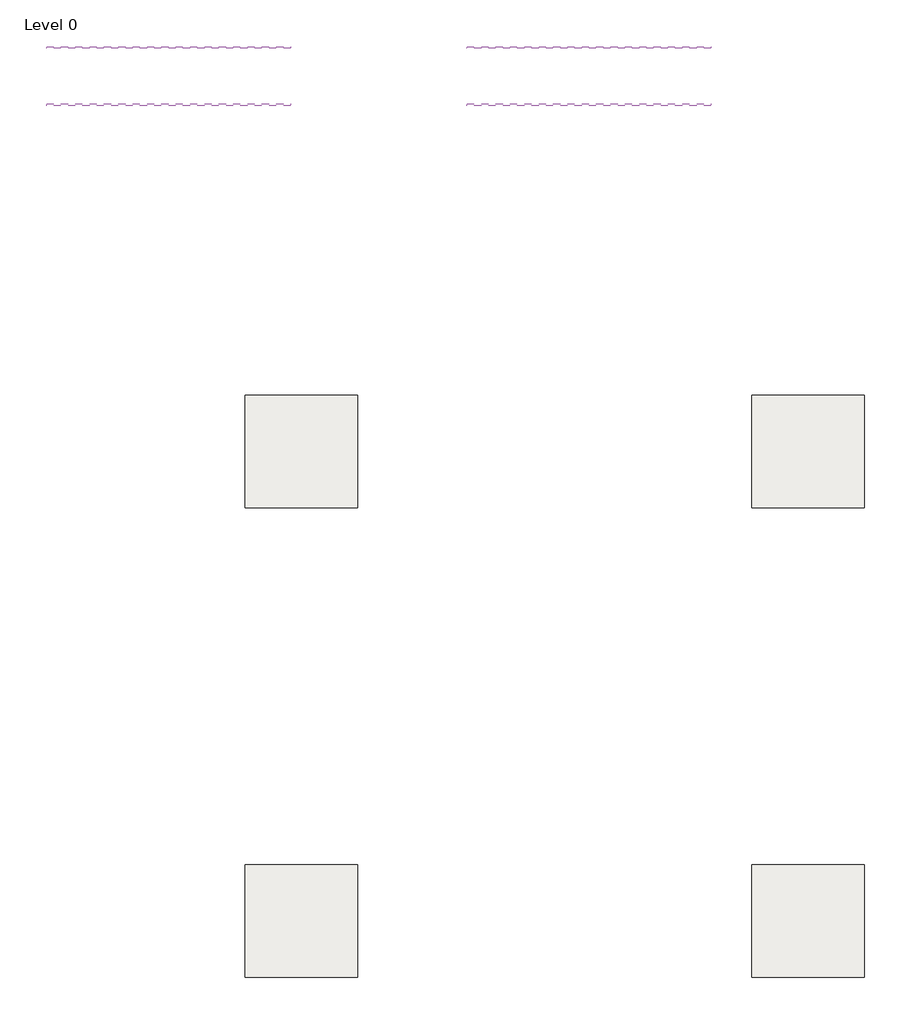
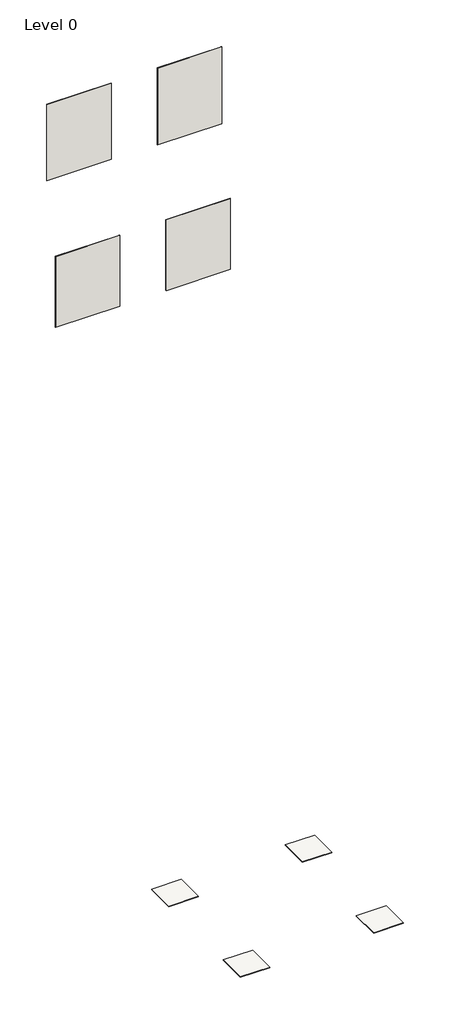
# One storey: 4 slabs, 4 walls.
"""IFC4 building model written with IfcOpenShell, lengths in millimetres."""

from ifc_helpers import new_model, si_unit, frame, origin, place, context, project, spatial, polyline, outline, extrude, element, save

model = new_model("IFC4")

# Units and contexts
model_context = context("Model", 3, world=origin())
ifc_project = project(units=[si_unit("LENGTHUNIT", "METRE", prefix="MILLI")], contexts=[model_context])

# Site, building, storey
site = spatial("IfcSite", under=ifc_project)
building = spatial("IfcBuilding", under=site)
storey = spatial("IfcBuildingStorey", under=building, Name="Level 0", Elevation=0.0)

# Slabs
placement = place(None, origin())
element("IfcSlab", 1, ObjectType="Floor_Tiles_Refin-Flake-Dark-Medium-60x60 MK60", at=placement, inside=storey, context=model_context, shape_type="SweptSolid", body=[
    extrude(outline(polyline([(7574.3752062, 6288.4192064), (7574.3752062, 5688.4192064), (6974.3752062, 5688.4192064), (6974.3752062, 6288.4192064), (7574.3752062, 6288.4192064)])), frame((0.0, 0.0, -10.0), z_axis=(0.0, 0.0, 1.0), x_axis=(1.0, 0.0, 0.0)), (0.0, 0.0, 1.0), 10.0),
])
element("IfcSlab", 2, ObjectType="Floor_Tiles_Refin-Flake-Dark-Medium-Soft-60x60 MK59", at=placement, inside=storey, context=model_context, shape_type="SweptSolid", body=[
    extrude(outline(polyline([(10274.3752062, 6288.4192064), (10274.3752062, 5688.4192064), (9674.3752062, 5688.4192064), (9674.3752062, 6288.4192064), (10274.3752062, 6288.4192064)])), frame((0.0, 0.0, -10.0), z_axis=(0.0, 0.0, 1.0), x_axis=(1.0, 0.0, 0.0)), (0.0, 0.0, 1.0), 10.0),
])
element("IfcSlab", 3, ObjectType="Floor_Tiles_Refin-Flake-Dark-Small-60x60 MK68", at=placement, inside=storey, context=model_context, shape_type="SweptSolid", body=[
    extrude(outline(polyline([(7574.3752062, 3788.4192064), (7574.3752062, 3188.4192064), (6974.3752062, 3188.4192064), (6974.3752062, 3788.4192064), (7574.3752062, 3788.4192064)])), frame((0.0, 0.0, -10.0), z_axis=(0.0, 0.0, 1.0), x_axis=(1.0, 0.0, 0.0)), (0.0, 0.0, 1.0), 10.0),
])
element("IfcSlab", 4, ObjectType="Floor_Tiles_Refin-Flake-Dark-Small-Soft-60x60 MK67", at=placement, inside=storey, context=model_context, shape_type="SweptSolid", body=[
    extrude(outline(polyline([(10274.3752062, 3788.4192064), (10274.3752062, 3188.4192064), (9674.3752062, 3188.4192064), (9674.3752062, 3788.4192064), (10274.3752062, 3788.4192064)])), frame((0.0, 0.0, -10.0), z_axis=(0.0, 0.0, 1.0), x_axis=(1.0, 0.0, 0.0)), (0.0, 0.0, 1.0), 10.0),
])

# Walls
element("IfcWall", 5, ObjectType="Wall_Tiles_Refin-Flake-Dark-Medium-Soft-60x60 MK59", at=placement, inside=storey, context=model_context, shape_type="SweptSolid", body=[
    extrude(outline(polyline([(9457.3752062, 8132.3838631), (8157.3752062, 8132.3838631), (8157.3752062, 8142.3838631), (9457.3752062, 8142.3838631), (9457.3752062, 8132.3838631)])), frame((0.0, 0.0, 14387.6770443), z_axis=(0.0, 0.0, 1.0), x_axis=(1.0, 0.0, 0.0)), (0.0, 0.0, 1.0), 1641.7417352),
])
element("IfcWall", 6, ObjectType="Wall_Tiles_Refin-Flake-Dark-Medium-60x60 MK60", at=placement, inside=storey, context=model_context, shape_type="SweptSolid", body=[
    extrude(outline(polyline([(7217.3752062, 8132.3838631), (5917.3752062, 8132.3838631), (5917.3752062, 8142.3838631), (7217.3752062, 8142.3838631), (7217.3752062, 8132.3838631)])), frame((0.0, 0.0, 14403.7267346), z_axis=(0.0, 0.0, 1.0), x_axis=(1.0, 0.0, 0.0)), (0.0, 0.0, 1.0), 1625.692045),
])
element("IfcWall", 7, ObjectType="Wall_Tiles_Refin-Flake-Dark-Small-60x60 MK68", at=placement, inside=storey, context=model_context, shape_type="SweptSolid", body=[
    extrude(outline(polyline([(7217.3752062, 7827.3838631), (5917.3752062, 7827.3838631), (5917.3752062, 7837.3838631), (7217.3752062, 7837.3838631), (7217.3752062, 7827.3838631)])), frame((0.0, 0.0, 11452.5436262), z_axis=(0.0, 0.0, 1.0), x_axis=(1.0, 0.0, 0.0)), (0.0, 0.0, 1.0), 1513.1985566),
])
element("IfcWall", 8, ObjectType="Wall_Tiles_Refin-Flake-Dark-Small-Soft-60x60 MK67", at=placement, inside=storey, context=model_context, shape_type="SweptSolid", body=[
    extrude(outline(polyline([(9457.3752062, 7827.3838631), (8157.3752062, 7827.3838631), (8157.3752062, 7837.3838631), (9457.3752062, 7837.3838631), (9457.3752062, 7827.3838631)])), frame((0.0, 0.0, 11452.5436262), z_axis=(0.0, 0.0, 1.0), x_axis=(1.0, 0.0, 0.0)), (0.0, 0.0, 1.0), 1513.1985566),
])

save(model, "model.ifc")
